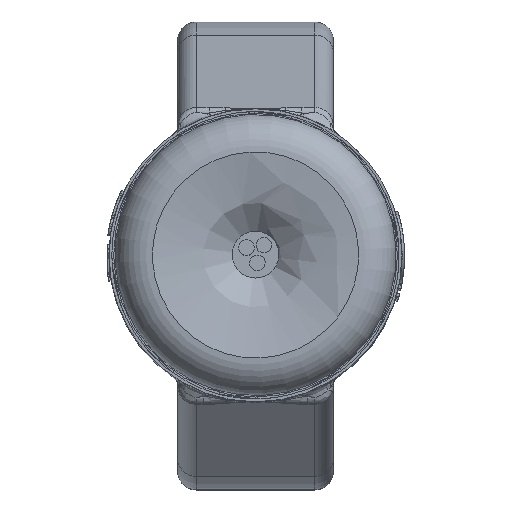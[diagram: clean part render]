
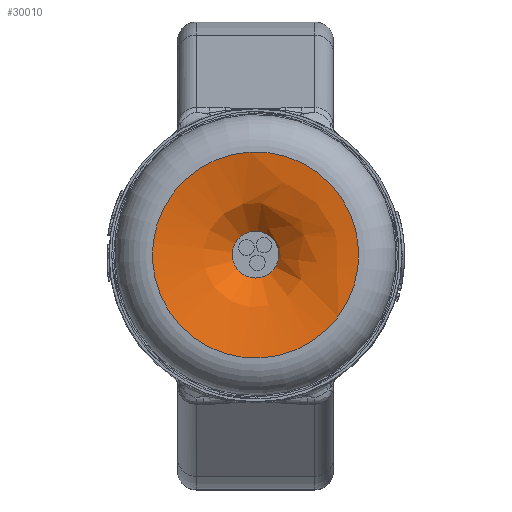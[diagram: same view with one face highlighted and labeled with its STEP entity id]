
A CAD part, top view. The second image highlights one B-rep face of the part: STEP entity #30010.
In plain terms, the highlighted free-form (B-spline) face has degree [2, 2] with [3, 9] control points.
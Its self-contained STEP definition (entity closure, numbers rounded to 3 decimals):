
#34=(
BOUNDED_SURFACE()
B_SPLINE_SURFACE(2,2,((#65611,#65612,#65613,#65614,#65615,#65616,#65617,
#65618,#65619),(#65620,#65621,#65622,#65623,#65624,#65625,#65626,#65627,
#65628),(#65629,#65630,#65631,#65632,#65633,#65634,#65635,#65636,#65637)),
 .UNSPECIFIED.,.F.,.T.,.F.)
B_SPLINE_SURFACE_WITH_KNOTS((3,3),(3,2,2,2,3),(-2.4,-1.571),
(-3.142,-1.571,0.,1.571,3.142),
 .UNSPECIFIED.)
GEOMETRIC_REPRESENTATION_ITEM()
RATIONAL_B_SPLINE_SURFACE(((1.,0.707,1.,0.707,1.,
0.707,1.,0.707,1.),(0.915,0.647,
0.915,0.647,0.915,0.647,
0.915,0.647,0.915),(1.,0.707,
1.,0.707,1.,0.707,1.,0.707,1.)))
REPRESENTATION_ITEM('')
SURFACE()
);
#3710=FACE_OUTER_BOUND('',#5543,.T.);
#5543=EDGE_LOOP('',(#27778,#27779,#27780,#27781));
#12024=CIRCLE('',#32461,1.631);
#12029=CIRCLE('',#32467,16.54);
#12030=CIRCLE('',#32468,20.231);
#14861=VERTEX_POINT('',#65600);
#14865=VERTEX_POINT('',#65638);
#19175=EDGE_CURVE('',#14861,#14861,#12024,.T.);
#19181=EDGE_CURVE('',#14865,#14865,#12029,.T.);
#19182=EDGE_CURVE('',#14865,#14861,#12030,.T.);
#27778=ORIENTED_EDGE('',*,*,#19181,.F.);
#27779=ORIENTED_EDGE('',*,*,#19182,.T.);
#27780=ORIENTED_EDGE('',*,*,#19175,.F.);
#27781=ORIENTED_EDGE('',*,*,#19182,.F.);
#30010=ADVANCED_FACE('',(#3710),#34,.F.);
#32461=AXIS2_PLACEMENT_3D('',#65601,#39216,#39217);
#32467=AXIS2_PLACEMENT_3D('',#65639,#39229,#39230);
#32468=AXIS2_PLACEMENT_3D('',#65640,#39231,#39232);
#39216=DIRECTION('center_axis',(1.,0.,0.));
#39217=DIRECTION('ref_axis',(0.,1.,0.));
#39229=DIRECTION('center_axis',(-1.,0.,0.));
#39230=DIRECTION('ref_axis',(0.,-1.,0.));
#39231=DIRECTION('center_axis',(0.,-1.,0.));
#39232=DIRECTION('ref_axis',(0.,0.,-1.));
#65600=CARTESIAN_POINT('',(55.402,0.,-1.631));
#65601=CARTESIAN_POINT('Origin',(55.402,0.,
0.));
#65611=CARTESIAN_POINT('Ctrl Pts',(55.402,0.,
-1.631));
#65612=CARTESIAN_POINT('Ctrl Pts',(55.402,-1.631,-1.631));
#65613=CARTESIAN_POINT('Ctrl Pts',(55.402,-1.631,0.));
#65614=CARTESIAN_POINT('Ctrl Pts',(55.402,-1.631,1.631));
#65615=CARTESIAN_POINT('Ctrl Pts',(55.402,0.,
1.631));
#65616=CARTESIAN_POINT('Ctrl Pts',(55.402,1.631,1.631));
#65617=CARTESIAN_POINT('Ctrl Pts',(55.402,1.631,0.));
#65618=CARTESIAN_POINT('Ctrl Pts',(55.402,1.631,-1.631));
#65619=CARTESIAN_POINT('Ctrl Pts',(55.402,0.,
-1.631));
#65620=CARTESIAN_POINT('Ctrl Pts',(61.965,0.,
-7.641));
#65621=CARTESIAN_POINT('Ctrl Pts',(61.965,-7.641,-7.641));
#65622=CARTESIAN_POINT('Ctrl Pts',(61.965,-7.641,0.));
#65623=CARTESIAN_POINT('Ctrl Pts',(61.965,-7.641,7.641));
#65624=CARTESIAN_POINT('Ctrl Pts',(61.965,0.,
7.641));
#65625=CARTESIAN_POINT('Ctrl Pts',(61.965,7.641,7.641));
#65626=CARTESIAN_POINT('Ctrl Pts',(61.965,7.641,0.));
#65627=CARTESIAN_POINT('Ctrl Pts',(61.965,7.641,-7.641));
#65628=CARTESIAN_POINT('Ctrl Pts',(61.965,0.,
-7.641));
#65629=CARTESIAN_POINT('Ctrl Pts',(61.97,0.,
-16.54));
#65630=CARTESIAN_POINT('Ctrl Pts',(61.97,-16.54,-16.54));
#65631=CARTESIAN_POINT('Ctrl Pts',(61.97,-16.54,0.));
#65632=CARTESIAN_POINT('Ctrl Pts',(61.97,-16.54,16.54));
#65633=CARTESIAN_POINT('Ctrl Pts',(61.97,0.,
16.54));
#65634=CARTESIAN_POINT('Ctrl Pts',(61.97,16.54,16.54));
#65635=CARTESIAN_POINT('Ctrl Pts',(61.97,16.54,0.));
#65636=CARTESIAN_POINT('Ctrl Pts',(61.97,16.54,-16.54));
#65637=CARTESIAN_POINT('Ctrl Pts',(61.97,0.,
-16.54));
#65638=CARTESIAN_POINT('',(61.97,0.,-16.54));
#65639=CARTESIAN_POINT('Origin',(61.97,0.,
0.));
#65640=CARTESIAN_POINT('Origin',(41.739,0.,
-16.551));
